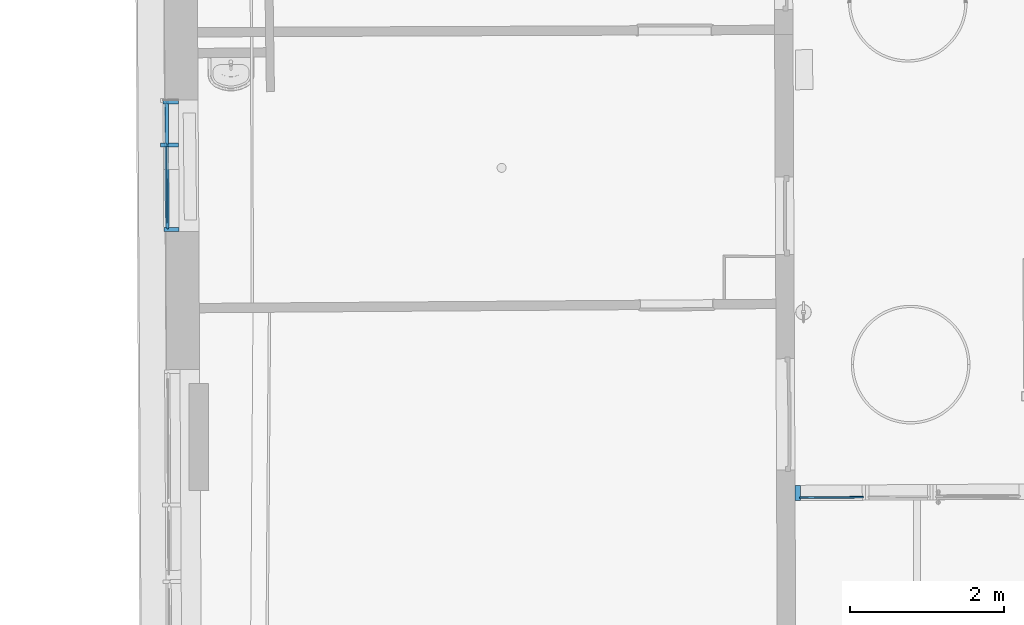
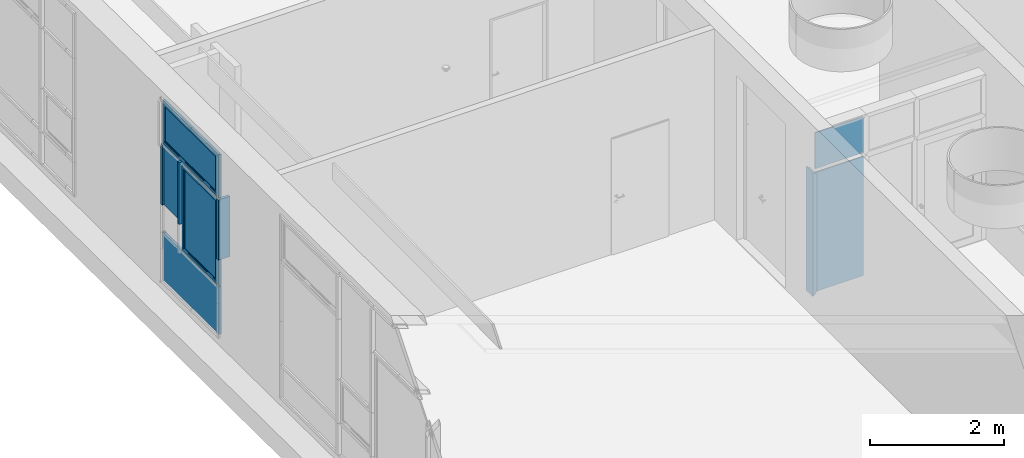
# One storey, part 97 of 158: 12 building element parts, 2 elements without a shape of their own.
"""IFC2X3 building model written with IfcOpenShell, lengths in metres."""

from ifc_helpers import new_model, entity, si_unit, converted_unit, derived_unit, money_unit, direction, frame, origin_with_axes, place, context, subcontext, project, spatial, faceted_brep, material, type_object, element, aggregate, save


model = new_model("IFC2X3")

# Units and contexts
model_context = context("Model", 3, precision=1e-05, world=origin_with_axes(), true_north=direction((0.0, 1.0)))
body_context = subcontext(model_context, "Body", "Model", "MODEL_VIEW")
ifc_project = project(units=[si_unit("LENGTHUNIT", "METRE"), si_unit("AREAUNIT", "SQUARE_METRE"), si_unit("VOLUMEUNIT", "CUBIC_METRE"), converted_unit("PLANEANGLEUNIT", "DEGREE", entity("IfcPlaneAngleMeasure", 0.0174532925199), si_unit("PLANEANGLEUNIT", "RADIAN"), dimensions=[0, 0, 0, 0, 0, 0, 0]), money_unit("EUR"), converted_unit("TIMEUNIT", "Year", entity("IfcTimeMeasure", 31556926.0), si_unit("TIMEUNIT", "SECOND"), dimensions=[0, 0, 1, 0, 0, 0, 0]), si_unit("MASSUNIT", "GRAM", prefix="KILO"), si_unit("THERMODYNAMICTEMPERATUREUNIT", "DEGREE_CELSIUS"), si_unit("LUMINOUSINTENSITYUNIT", "LUMEN"), si_unit("ENERGYUNIT", "JOULE", prefix="MEGA"), derived_unit("THERMALCONDUCTANCEUNIT", [(si_unit("POWERUNIT", "WATT"), 1), (si_unit("LENGTHUNIT", "METRE"), -1), (si_unit("THERMODYNAMICTEMPERATUREUNIT", "KELVIN"), -1)]), derived_unit("SPECIFICHEATCAPACITYUNIT", [(si_unit("ENERGYUNIT", "JOULE"), 1), (si_unit("MASSUNIT", "GRAM", prefix="KILO"), -1), (si_unit("THERMODYNAMICTEMPERATUREUNIT", "KELVIN"), -1)]), derived_unit("MASSDENSITYUNIT", [(si_unit("MASSUNIT", "GRAM", prefix="KILO"), 1), (si_unit("VOLUMEUNIT", "CUBIC_METRE"), -1)])], contexts=[model_context])

# Site, building, storey
site_placement = place(None, origin_with_axes())
site = spatial("IfcSite", under=ifc_project, at=site_placement, Name="Gelände", CompositionType="ELEMENT")
building_placement = place(site_placement, origin_with_axes())
building = spatial("IfcBuilding", under=site, at=building_placement, Name="Gebäude", CompositionType="ELEMENT")
storey_placement = place(building_placement, origin_with_axes())
storey = spatial("IfcBuildingStorey", under=building, at=storey_placement, Name="ERDGESCHOSS", CompositionType="ELEMENT", Elevation=0.0)

# Proxy, building element parts
building_element_proxy_type = type_object("IfcBuildingElementProxyType", Name="Fassadentyp", PredefinedType="NOTDEFINED")
proxy_1_placement = place(storey_placement, frame((-34.8671799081, 43.8049527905, 1.34043902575), z_axis=(0.0, 0.0, 1.0), x_axis=(1.0, 0.0, 0.0)))
proxy_1 = element("IfcBuildingElementProxy", 1, at=proxy_1_placement, inside=storey, type_object=building_element_proxy_type, Name="Fassade-002")
ifc_material_1 = material(Name="53_Metall, Aluminium")
building_element_part_1_placement = place(proxy_1_placement, origin_with_axes())
building_element_part_1 = element("IfcBuildingElementPart", 2, at=building_element_part_1_placement, material=ifc_material_1, Name="53_Metall, Aluminium", context=body_context, shape_type="Brep", body=[
    faceted_brep([(-0.0347110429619, 0.803183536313, 2.54500004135), (-0.0251331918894, -0.829918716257, 2.54500004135), (-0.0301331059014, -0.829948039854, 2.54500004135), (-0.0397109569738, 0.803154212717, 2.54500004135), (-0.0344471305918, 0.758184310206, 2.59000004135), (-0.0253971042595, -0.78491949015, 2.59000004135), (-0.0303970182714, -0.784948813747, 2.59000004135), (-0.0394470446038, 0.758154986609, 2.59000004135)], [[[0, 1, 2, 3]], [[0, 4, 5, 1]], [[1, 5, 6, 2]], [[3, 2, 6, 7]], [[4, 0, 3, 7]], [[5, 4, 7, 6]]]),
    faceted_brep([(-0.0251331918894, -0.829918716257, 2.54500004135), (-0.0251331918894, -0.829918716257, 3.29999994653), (-0.0301331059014, -0.829948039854, 3.29999994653), (-0.0301331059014, -0.829948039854, 2.54500004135), (-0.0253971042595, -0.78491949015, 2.59000004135), (-0.0253971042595, -0.78491949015, 3.25499994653), (-0.0303970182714, -0.784948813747, 3.25499994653), (-0.0303970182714, -0.784948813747, 2.59000004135)], [[[0, 1, 2, 3]], [[0, 4, 5, 1]], [[1, 5, 6, 2]], [[3, 2, 6, 7]], [[4, 0, 3, 7]], [[5, 4, 7, 6]]]),
    faceted_brep([(-0.0347110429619, 0.803183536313, 3.29999994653), (-0.0344471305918, 0.758184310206, 3.25499994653), (-0.0394470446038, 0.758154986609, 3.25499994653), (-0.0397109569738, 0.803154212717, 3.29999994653), (-0.0251331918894, -0.829918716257, 3.29999994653), (-0.0253971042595, -0.78491949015, 3.25499994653), (-0.0303970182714, -0.784948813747, 3.25499994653), (-0.0301331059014, -0.829948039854, 3.29999994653)], [[[0, 1, 2, 3]], [[0, 4, 5, 1]], [[1, 5, 6, 2]], [[3, 2, 6, 7]], [[4, 0, 3, 7]], [[5, 4, 7, 6]]]),
    faceted_brep([(-0.0347110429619, 0.803183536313, 2.54500004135), (-0.0344471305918, 0.758184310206, 2.59000004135), (-0.0394470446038, 0.758154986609, 2.59000004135), (-0.0397109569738, 0.803154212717, 2.54500004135), (-0.0347110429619, 0.803183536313, 3.29999994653), (-0.0344471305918, 0.758184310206, 3.25499994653), (-0.0394470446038, 0.758154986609, 3.25499994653), (-0.0397109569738, 0.803154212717, 3.29999994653)], [[[0, 1, 2, 3]], [[0, 4, 5, 1]], [[1, 5, 6, 2]], [[3, 2, 6, 7]], [[4, 0, 3, 7]], [[5, 4, 7, 6]]]),
    faceted_brep([(0.0152880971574, 0.80347677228, 2.54500004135), (0.0248659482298, -0.82962548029, 2.54500004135), (-0.0251331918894, -0.829918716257, 2.54500004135), (-0.0347110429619, 0.803183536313, 2.54500004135), (0.0154053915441, 0.783477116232, 2.56500004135), (0.0247486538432, -0.809625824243, 2.56500004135), (-0.0252504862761, -0.80991906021, 2.56500004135), (-0.0345937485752, 0.783183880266, 2.56500004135)], [[[0, 1, 2, 3]], [[0, 4, 5, 1]], [[1, 5, 6, 2]], [[3, 2, 6, 7]], [[4, 0, 3, 7]], [[5, 4, 7, 6]]]),
    faceted_brep([(0.0248659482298, -0.82962548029, 2.54500004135), (0.0248659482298, -0.82962548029, 3.29999994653), (-0.0251331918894, -0.829918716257, 3.29999994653), (-0.0251331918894, -0.829918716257, 2.54500004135), (0.0247486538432, -0.809625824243, 2.56500004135), (0.0247486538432, -0.809625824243, 3.27999994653), (-0.0252504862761, -0.80991906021, 3.27999994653), (-0.0252504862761, -0.80991906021, 2.56500004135)], [[[0, 1, 2, 3]], [[0, 4, 5, 1]], [[1, 5, 6, 2]], [[3, 2, 6, 7]], [[4, 0, 3, 7]], [[5, 4, 7, 6]]]),
    faceted_brep([(0.0152880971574, 0.80347677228, 3.29999994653), (0.0154053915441, 0.783477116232, 3.27999994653), (-0.0345937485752, 0.783183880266, 3.27999994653), (-0.0347110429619, 0.803183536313, 3.29999994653), (0.0248659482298, -0.82962548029, 3.29999994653), (0.0247486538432, -0.809625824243, 3.27999994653), (-0.0252504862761, -0.80991906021, 3.27999994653), (-0.0251331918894, -0.829918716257, 3.29999994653)], [[[0, 1, 2, 3]], [[0, 4, 5, 1]], [[1, 5, 6, 2]], [[3, 2, 6, 7]], [[4, 0, 3, 7]], [[5, 4, 7, 6]]]),
    faceted_brep([(0.0152880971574, 0.80347677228, 2.54500004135), (0.0154053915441, 0.783477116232, 2.56500004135), (-0.0345937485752, 0.783183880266, 2.56500004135), (-0.0347110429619, 0.803183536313, 2.54500004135), (0.0152880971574, 0.80347677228, 3.29999994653), (0.0154053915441, 0.783477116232, 3.27999994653), (-0.0345937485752, 0.783183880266, 3.27999994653), (-0.0347110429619, 0.803183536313, 3.29999994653)], [[[0, 1, 2, 3]], [[0, 4, 5, 1]], [[1, 5, 6, 2]], [[3, 2, 6, 7]], [[4, 0, 3, 7]], [[5, 4, 7, 6]]]),
    faceted_brep([(0.0152001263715, 0.818476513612, 2.53000004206), (0.0249539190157, -0.844625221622, 2.53000004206), (-0.0150453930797, -0.844859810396, 2.53000004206), (-0.0247991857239, 0.818241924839, 2.53000004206), (0.0152880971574, 0.80347677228, 2.54500004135), (0.0248659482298, -0.82962548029, 2.54500004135), (-0.0151333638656, -0.829860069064, 2.54500004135), (-0.024711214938, 0.803242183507, 2.54500004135)], [[[0, 1, 2, 3]], [[0, 4, 5, 1]], [[1, 5, 6, 2]], [[3, 2, 6, 7]], [[4, 0, 3, 7]], [[5, 4, 7, 6]]]),
    faceted_brep([(0.0249539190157, -0.844625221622, 2.53000004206), (0.0249539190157, -0.844625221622, 3.31499994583), (-0.0150453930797, -0.844859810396, 3.31499994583), (-0.0150453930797, -0.844859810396, 2.53000004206), (0.0248659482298, -0.82962548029, 2.54500004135), (0.0248659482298, -0.82962548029, 3.29999994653), (-0.0151333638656, -0.829860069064, 3.29999994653), (-0.0151333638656, -0.829860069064, 2.54500004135)], [[[0, 1, 2, 3]], [[0, 4, 5, 1]], [[1, 5, 6, 2]], [[3, 2, 6, 7]], [[4, 0, 3, 7]], [[5, 4, 7, 6]]]),
    faceted_brep([(0.0249539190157, -0.844625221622, 3.31499994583), (0.0152001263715, 0.818476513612, 3.31499994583), (-0.0247991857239, 0.818241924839, 3.31499994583), (-0.0150453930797, -0.844859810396, 3.31499994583), (0.0248659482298, -0.82962548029, 3.29999994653), (0.0152880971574, 0.80347677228, 3.29999994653), (-0.024711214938, 0.803242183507, 3.29999994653), (-0.0151333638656, -0.829860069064, 3.29999994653)], [[[0, 1, 2, 3]], [[0, 4, 5, 1]], [[1, 5, 6, 2]], [[3, 2, 6, 7]], [[4, 0, 3, 7]], [[5, 4, 7, 6]]]),
    faceted_brep([(0.0152001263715, 0.818476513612, 3.31499994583), (0.0152001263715, 0.818476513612, 2.53000004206), (-0.0247991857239, 0.818241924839, 2.53000004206), (-0.0247991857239, 0.818241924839, 3.31499994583), (0.0152880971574, 0.80347677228, 3.29999994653), (0.0152880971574, 0.80347677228, 2.54500004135), (-0.024711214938, 0.803242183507, 2.54500004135), (-0.024711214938, 0.803242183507, 3.29999994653)], [[[0, 1, 2, 3]], [[0, 4, 5, 1]], [[1, 5, 6, 2]], [[3, 2, 6, 7]], [[4, 0, 3, 7]], [[5, 4, 7, 6]]]),
    faceted_brep([(-0.0343298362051, 0.738184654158, 2.61000004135), (0.0206692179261, 0.738507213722, 2.61000004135), (0.0206692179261, 0.738507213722, 3.23499994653), (-0.0343298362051, 0.738184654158, 3.23499994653), (-0.0345937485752, 0.783183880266, 2.56500004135), (0.020405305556, 0.783506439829, 2.56500004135), (0.020405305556, 0.783506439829, 3.27999994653), (-0.0345937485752, 0.783183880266, 3.27999994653)], [[[0, 1, 2, 3]], [[4, 5, 1, 0]], [[1, 5, 6, 2]], [[3, 2, 6, 7]], [[0, 3, 7, 4]], [[7, 6, 5, 4]]]),
    faceted_brep([(-0.0252504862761, -0.80991906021, 2.56500004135), (0.0297485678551, -0.809596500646, 2.56500004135), (0.0297485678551, -0.809596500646, 3.27999994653), (-0.0252504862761, -0.80991906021, 3.27999994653), (-0.0255143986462, -0.764919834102, 2.61000004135), (0.029484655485, -0.764597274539, 2.61000004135), (0.029484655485, -0.764597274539, 3.23499994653), (-0.0255143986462, -0.764919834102, 3.23499994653)], [[[0, 1, 2, 3]], [[4, 5, 1, 0]], [[1, 5, 6, 2]], [[3, 2, 6, 7]], [[0, 3, 7, 4]], [[7, 6, 5, 4]]]),
    faceted_brep([(-0.0252504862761, -0.80991906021, 2.56500004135), (0.0297485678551, -0.809596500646, 2.56500004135), (0.029484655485, -0.764597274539, 2.61000004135), (-0.0255143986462, -0.764919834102, 2.61000004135), (-0.0345937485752, 0.783183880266, 2.56500004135), (0.020405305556, 0.783506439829, 2.56500004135), (0.0206692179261, 0.738507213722, 2.61000004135), (-0.0343298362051, 0.738184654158, 2.61000004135)], [[[0, 1, 2, 3]], [[4, 5, 1, 0]], [[1, 5, 6, 2]], [[3, 2, 6, 7]], [[0, 3, 7, 4]], [[7, 6, 5, 4]]]),
    faceted_brep([(-0.0345937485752, 0.783183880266, 3.27999994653), (0.020405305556, 0.783506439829, 3.27999994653), (0.0206692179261, 0.738507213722, 3.23499994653), (-0.0343298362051, 0.738184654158, 3.23499994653), (-0.0252504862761, -0.80991906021, 3.27999994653), (0.0297485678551, -0.809596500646, 3.27999994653), (0.029484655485, -0.764597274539, 3.23499994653), (-0.0255143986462, -0.764919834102, 3.23499994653)], [[[0, 1, 2, 3]], [[4, 5, 1, 0]], [[1, 5, 6, 2]], [[3, 2, 6, 7]], [[0, 3, 7, 4]], [[7, 6, 5, 4]]]),
])
ifc_material_2 = material(Name="45_Glas, Normalglas")
building_element_part_2_placement = place(proxy_1_placement, origin_with_axes())
building_element_part_2 = element("IfcBuildingElementPart", 3, at=building_element_part_2_placement, material=ifc_material_2, Name="45_Glas, Normalglas", context=body_context, shape_type="Brep", body=[
    faceted_brep([(-0.0243300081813, 0.738243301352, 2.61000004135), (-0.00833028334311, 0.738337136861, 2.61000004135), (0.000485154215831, -0.764767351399, 2.61000004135), (-0.0155145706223, -0.764861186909, 2.61000004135), (-0.0243300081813, 0.738243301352, 3.23499994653), (-0.00833028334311, 0.738337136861, 3.23499994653), (0.000485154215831, -0.764767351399, 3.23499994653), (-0.0155145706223, -0.764861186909, 3.23499994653)], [[[0, 1, 2, 3]], [[4, 5, 1, 0]], [[1, 5, 6, 2]], [[3, 2, 6, 7]], [[0, 3, 7, 4]], [[7, 6, 5, 4]]]),
])
building_element_part_3_placement = place(proxy_1_placement, origin_with_axes())
building_element_part_3 = element("IfcBuildingElementPart", 4, at=building_element_part_3_placement, material=ifc_material_1, Name="53_Metall, Aluminium", context=body_context, shape_type="Brep", body=[
    faceted_brep([(-0.0312957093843, 0.220841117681, 0.940545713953), (-0.025133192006, -0.82991869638, 0.940545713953), (-0.0301331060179, -0.829948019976, 0.940545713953), (-0.0362956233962, 0.220811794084, 0.940545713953), (-0.0310317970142, 0.175841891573, 0.985545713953), (-0.0253971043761, -0.784919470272, 0.985545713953), (-0.030397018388, -0.784948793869, 0.985545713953), (-0.0360317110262, 0.175812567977, 0.985545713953)], [[[0, 1, 2, 3]], [[0, 4, 5, 1]], [[1, 5, 6, 2]], [[3, 2, 6, 7]], [[4, 0, 3, 7]], [[5, 4, 7, 6]]]),
    faceted_brep([(-0.025133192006, -0.82991869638, 0.940545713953), (-0.025133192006, -0.82991869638, 2.49500003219), (-0.0301331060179, -0.829948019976, 2.49500003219), (-0.0301331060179, -0.829948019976, 0.940545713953), (-0.0253971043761, -0.784919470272, 0.985545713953), (-0.0253971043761, -0.784919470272, 2.45000003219), (-0.030397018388, -0.784948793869, 2.45000003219), (-0.030397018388, -0.784948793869, 0.985545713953)], [[[0, 1, 2, 3]], [[0, 4, 5, 1]], [[1, 5, 6, 2]], [[3, 2, 6, 7]], [[4, 0, 3, 7]], [[5, 4, 7, 6]]]),
    faceted_brep([(-0.0312957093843, 0.220841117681, 2.49500003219), (-0.0310317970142, 0.175841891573, 2.45000003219), (-0.0360317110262, 0.175812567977, 2.45000003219), (-0.0362956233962, 0.220811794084, 2.49500003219), (-0.025133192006, -0.82991869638, 2.49500003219), (-0.0253971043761, -0.784919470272, 2.45000003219), (-0.030397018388, -0.784948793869, 2.45000003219), (-0.0301331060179, -0.829948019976, 2.49500003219)], [[[0, 1, 2, 3]], [[0, 4, 5, 1]], [[1, 5, 6, 2]], [[3, 2, 6, 7]], [[4, 0, 3, 7]], [[5, 4, 7, 6]]]),
    faceted_brep([(-0.0312957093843, 0.220841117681, 0.940545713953), (-0.0310317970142, 0.175841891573, 0.985545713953), (-0.0360317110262, 0.175812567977, 0.985545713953), (-0.0362956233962, 0.220811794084, 0.940545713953), (-0.0312957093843, 0.220841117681, 2.49500003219), (-0.0310317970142, 0.175841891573, 2.45000003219), (-0.0360317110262, 0.175812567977, 2.45000003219), (-0.0362956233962, 0.220811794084, 2.49500003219)], [[[0, 1, 2, 3]], [[0, 4, 5, 1]], [[1, 5, 6, 2]], [[3, 2, 6, 7]], [[4, 0, 3, 7]], [[5, 4, 7, 6]]]),
    faceted_brep([(0.018703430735, 0.221134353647, 0.940545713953), (0.0248659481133, -0.829625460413, 0.940545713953), (-0.025133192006, -0.82991869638, 0.940545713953), (-0.0312957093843, 0.220841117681, 0.940545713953), (0.0188207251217, 0.2011346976, 0.960545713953), (0.0247486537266, -0.809625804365, 0.960545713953), (-0.0252504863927, -0.809919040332, 0.960545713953), (-0.0311784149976, 0.200841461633, 0.960545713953)], [[[0, 1, 2, 3]], [[0, 4, 5, 1]], [[1, 5, 6, 2]], [[3, 2, 6, 7]], [[4, 0, 3, 7]], [[5, 4, 7, 6]]]),
    faceted_brep([(0.0248659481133, -0.829625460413, 0.940545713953), (0.0248659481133, -0.829625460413, 2.49500003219), (-0.025133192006, -0.82991869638, 2.49500003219), (-0.025133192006, -0.82991869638, 0.940545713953), (0.0247486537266, -0.809625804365, 0.960545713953), (0.0247486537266, -0.809625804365, 2.47500003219), (-0.0252504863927, -0.809919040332, 2.47500003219), (-0.0252504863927, -0.809919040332, 0.960545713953)], [[[0, 1, 2, 3]], [[0, 4, 5, 1]], [[1, 5, 6, 2]], [[3, 2, 6, 7]], [[4, 0, 3, 7]], [[5, 4, 7, 6]]]),
    faceted_brep([(0.018703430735, 0.221134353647, 2.49500003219), (0.0188207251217, 0.2011346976, 2.47500003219), (-0.0311784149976, 0.200841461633, 2.47500003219), (-0.0312957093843, 0.220841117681, 2.49500003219), (0.0248659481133, -0.829625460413, 2.49500003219), (0.0247486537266, -0.809625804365, 2.47500003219), (-0.0252504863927, -0.809919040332, 2.47500003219), (-0.025133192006, -0.82991869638, 2.49500003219)], [[[0, 1, 2, 3]], [[0, 4, 5, 1]], [[1, 5, 6, 2]], [[3, 2, 6, 7]], [[4, 0, 3, 7]], [[5, 4, 7, 6]]]),
    faceted_brep([(0.018703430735, 0.221134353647, 0.940545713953), (0.0188207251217, 0.2011346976, 0.960545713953), (-0.0311784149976, 0.200841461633, 0.960545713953), (-0.0312957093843, 0.220841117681, 0.940545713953), (0.018703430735, 0.221134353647, 2.49500003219), (0.0188207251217, 0.2011346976, 2.47500003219), (-0.0311784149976, 0.200841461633, 2.47500003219), (-0.0312957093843, 0.220841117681, 2.49500003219)], [[[0, 1, 2, 3]], [[0, 4, 5, 1]], [[1, 5, 6, 2]], [[3, 2, 6, 7]], [[4, 0, 3, 7]], [[5, 4, 7, 6]]]),
    faceted_brep([(0.0186154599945, 0.23613408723, 0.925545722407), (0.0249539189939, -0.844625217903, 0.925545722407), (-0.0150453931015, -0.844859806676, 0.925545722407), (-0.0213838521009, 0.235899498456, 0.925545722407), (0.018703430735, 0.221134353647, 0.940545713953), (0.0248659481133, -0.829625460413, 0.940545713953), (-0.0151333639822, -0.829860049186, 0.940545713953), (-0.0212958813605, 0.220899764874, 0.940545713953)], [[[0, 1, 2, 3]], [[0, 4, 5, 1]], [[1, 5, 6, 2]], [[3, 2, 6, 7]], [[4, 0, 3, 7]], [[5, 4, 7, 6]]]),
    faceted_brep([(0.0249539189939, -0.844625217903, 0.925545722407), (0.0249539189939, -0.844625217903, 2.51000002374), (-0.0150453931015, -0.844859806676, 2.51000002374), (-0.0150453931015, -0.844859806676, 0.925545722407), (0.0248659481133, -0.829625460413, 0.940545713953), (0.0248659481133, -0.829625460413, 2.49500003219), (-0.0151333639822, -0.829860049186, 2.49500003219), (-0.0151333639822, -0.829860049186, 0.940545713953)], [[[0, 1, 2, 3]], [[0, 4, 5, 1]], [[1, 5, 6, 2]], [[3, 2, 6, 7]], [[4, 0, 3, 7]], [[5, 4, 7, 6]]]),
    faceted_brep([(0.0249539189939, -0.844625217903, 2.51000002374), (0.0186154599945, 0.23613408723, 2.51000002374), (-0.0213838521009, 0.235899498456, 2.51000002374), (-0.0150453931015, -0.844859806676, 2.51000002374), (0.0248659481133, -0.829625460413, 2.49500003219), (0.018703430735, 0.221134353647, 2.49500003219), (-0.0212958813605, 0.220899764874, 2.49500003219), (-0.0151333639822, -0.829860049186, 2.49500003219)], [[[0, 1, 2, 3]], [[0, 4, 5, 1]], [[1, 5, 6, 2]], [[3, 2, 6, 7]], [[4, 0, 3, 7]], [[5, 4, 7, 6]]]),
    faceted_brep([(0.0186154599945, 0.23613408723, 2.51000002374), (0.0186154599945, 0.23613408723, 0.925545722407), (-0.0213838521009, 0.235899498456, 0.925545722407), (-0.0213838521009, 0.235899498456, 2.51000002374), (0.018703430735, 0.221134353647, 2.49500003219), (0.018703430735, 0.221134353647, 0.940545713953), (-0.0212958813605, 0.220899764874, 0.940545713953), (-0.0212958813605, 0.220899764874, 2.49500003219)], [[[0, 1, 2, 3]], [[0, 4, 5, 1]], [[1, 5, 6, 2]], [[3, 2, 6, 7]], [[4, 0, 3, 7]], [[5, 4, 7, 6]]]),
    faceted_brep([(-0.0309145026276, 0.155842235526, 1.00554571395), (0.0240845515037, 0.156164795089, 1.00554571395), (0.0240845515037, 0.156164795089, 2.43000003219), (-0.0309145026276, 0.155842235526, 2.43000003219), (-0.0311784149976, 0.200841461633, 0.960545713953), (0.0238206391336, 0.201164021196, 0.960545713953), (0.0238206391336, 0.201164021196, 2.47500003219), (-0.0311784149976, 0.200841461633, 2.47500003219)], [[[0, 1, 2, 3]], [[4, 5, 1, 0]], [[1, 5, 6, 2]], [[3, 2, 6, 7]], [[0, 3, 7, 4]], [[7, 6, 5, 4]]]),
    faceted_brep([(-0.0252504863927, -0.809919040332, 0.960545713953), (0.0297485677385, -0.809596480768, 0.960545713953), (0.0297485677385, -0.809596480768, 2.47500003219), (-0.0252504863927, -0.809919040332, 2.47500003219), (-0.0255143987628, -0.764919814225, 1.00554571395), (0.0294846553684, -0.764597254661, 1.00554571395), (0.0294846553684, -0.764597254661, 2.43000003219), (-0.0255143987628, -0.764919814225, 2.43000003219)], [[[0, 1, 2, 3]], [[4, 5, 1, 0]], [[1, 5, 6, 2]], [[3, 2, 6, 7]], [[0, 3, 7, 4]], [[7, 6, 5, 4]]]),
    faceted_brep([(-0.0252504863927, -0.809919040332, 0.960545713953), (0.0297485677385, -0.809596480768, 0.960545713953), (0.0294846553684, -0.764597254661, 1.00554571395), (-0.0255143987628, -0.764919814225, 1.00554571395), (-0.0311784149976, 0.200841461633, 0.960545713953), (0.0238206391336, 0.201164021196, 0.960545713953), (0.0240845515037, 0.156164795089, 1.00554571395), (-0.0309145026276, 0.155842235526, 1.00554571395)], [[[0, 1, 2, 3]], [[4, 5, 1, 0]], [[1, 5, 6, 2]], [[3, 2, 6, 7]], [[0, 3, 7, 4]], [[7, 6, 5, 4]]]),
    faceted_brep([(-0.0311784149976, 0.200841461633, 2.47500003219), (0.0238206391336, 0.201164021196, 2.47500003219), (0.0240845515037, 0.156164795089, 2.43000003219), (-0.0309145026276, 0.155842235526, 2.43000003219), (-0.0252504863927, -0.809919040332, 2.47500003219), (0.0297485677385, -0.809596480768, 2.47500003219), (0.0294846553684, -0.764597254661, 2.43000003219), (-0.0255143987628, -0.764919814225, 2.43000003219)], [[[0, 1, 2, 3]], [[4, 5, 1, 0]], [[1, 5, 6, 2]], [[3, 2, 6, 7]], [[0, 3, 7, 4]], [[7, 6, 5, 4]]]),
])
building_element_part_4_placement = place(proxy_1_placement, origin_with_axes())
building_element_part_4 = element("IfcBuildingElementPart", 5, at=building_element_part_4_placement, material=ifc_material_2, Name="45_Glas, Normalglas", context=body_context, shape_type="Brep", body=[
    faceted_brep([(-0.0209146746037, 0.155900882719, 1.00554571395), (-0.00491494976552, 0.155994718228, 1.00554571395), (0.000485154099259, -0.764767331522, 1.00554571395), (-0.0155145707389, -0.764861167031, 1.00554571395), (-0.0209146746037, 0.155900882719, 2.43000003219), (-0.00491494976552, 0.155994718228, 2.43000003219), (0.000485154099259, -0.764767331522, 2.43000003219), (-0.0155145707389, -0.764861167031, 2.43000003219)], [[[0, 1, 2, 3]], [[4, 5, 1, 0]], [[1, 5, 6, 2]], [[3, 2, 6, 7]], [[0, 3, 7, 4]], [[7, 6, 5, 4]]]),
])
building_element_part_5_placement = place(proxy_1_placement, origin_with_axes())
building_element_part_5 = element("IfcBuildingElementPart", 6, at=building_element_part_5_placement, material=ifc_material_2, Name="45_Glas, Normalglas", context=body_context, shape_type="Brep", body=[
    faceted_brep([(0.0154184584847, 0.781249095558, 0.915545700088), (0.0151414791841, 0.828476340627, 0.915545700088), (-0.0248578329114, 0.828241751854, 0.915545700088), (-0.0245808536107, 0.781014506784, 0.915545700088), (0.0154184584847, 0.781249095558, 0.905545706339), (0.0185568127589, 0.246133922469, 0.905545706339), (0.0204197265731, -0.0715081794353, 0.905545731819), (0.02495391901, -0.844625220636, 0.905545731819), (0.02495391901, -0.844625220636, 0.62000004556), (0.0249539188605, -0.844625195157, 0.0349999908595), (0.0204197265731, -0.0715081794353, 0.0349999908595), (0.0153362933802, 0.795258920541, 0.0349999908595), (0.0153362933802, 0.795258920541, 0.62000004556), (0.0151414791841, 0.828476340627, 0.62000004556), (-0.0248578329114, 0.828241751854, 0.62000004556), (-0.0246630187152, 0.795024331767, 0.62000004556), (-0.0246630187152, 0.795024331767, 0.0349999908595), (-0.0195795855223, -0.0717427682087, 0.0349999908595), (-0.0150453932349, -0.84485978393, 0.0349999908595), (-0.0150453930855, -0.844859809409, 0.62000004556), (-0.0150453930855, -0.844859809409, 0.905545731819), (-0.0195795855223, -0.0717427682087, 0.905545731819), (-0.0214424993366, 0.245899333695, 0.905545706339), (-0.0245808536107, 0.781014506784, 0.905545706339)], [[[0, 1, 2, 3]], [[0, 4, 5, 6, 7, 8, 9, 10, 11, 12, 13, 1]], [[1, 13, 14, 2]], [[3, 2, 14, 15, 16, 17, 18, 19, 20, 21, 22, 23]], [[4, 0, 3, 23]], [[5, 4, 23, 22]], [[6, 5, 22, 21]], [[7, 6, 21, 20]], [[8, 7, 20, 19]], [[9, 8, 19, 18]], [[10, 9, 18, 17]], [[11, 10, 17, 16]], [[12, 11, 16, 15]], [[13, 12, 15, 14]]]),
])
building_element_part_6_placement = place(proxy_1_placement, origin_with_axes())
building_element_part_6 = element("IfcBuildingElementPart", 7, at=building_element_part_6_placement, material=ifc_material_2, Name="45_Glas, Normalglas", context=body_context, shape_type="Brep", body=[
    faceted_brep([(0.0184981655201, 0.256133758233, 2.51000003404), (0.0153362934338, 0.7952589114, 2.51000003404), (-0.0246630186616, 0.795024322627, 2.51000003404), (-0.0215011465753, 0.255899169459, 2.51000003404), (0.0184981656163, 0.256133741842, 1.42000003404), (0.0153362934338, 0.7952589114, 1.42000003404), (-0.0246630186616, 0.795024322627, 1.42000003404), (-0.0215011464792, 0.255899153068, 1.42000003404)], [[[0, 1, 2, 3]], [[0, 4, 5, 1]], [[1, 5, 6, 2]], [[3, 2, 6, 7]], [[4, 0, 3, 7]], [[5, 4, 7, 6]]]),
])
building_element_part_7_placement = place(proxy_1_placement, origin_with_axes())
building_element_part_7 = element("IfcBuildingElementPart", 8, at=building_element_part_7_placement, material=ifc_material_1, Name="53_Metall, Aluminium", context=body_context, shape_type="Brep", body=[
    faceted_brep([(0.0149540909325, -0.844683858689, 2.52000003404), (-0.00504556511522, -0.844801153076, 2.52000003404), (-0.00513353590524, -0.82980141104, 2.52000003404), (-0.0451328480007, -0.830035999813, 2.52000003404), (-0.0448396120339, -0.880035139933, 2.52000003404), (0.155156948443, -0.878862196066, 2.52000003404), (0.154863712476, -0.828863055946, 2.52000003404), (0.0148661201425, -0.829684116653, 2.52000003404), (0.0149540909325, -0.844683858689, 1.42000003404), (-0.00504556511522, -0.844801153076, 1.42000003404), (-0.00513353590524, -0.82980141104, 1.42000003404), (-0.0451328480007, -0.830035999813, 1.42000003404), (-0.0448396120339, -0.880035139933, 1.42000003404), (0.155156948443, -0.878862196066, 1.42000003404), (0.154863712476, -0.828863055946, 1.42000003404), (0.0148661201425, -0.829684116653, 1.42000003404)], [[[0, 1, 2, 3, 4, 5, 6, 7]], [[1, 0, 8, 9]], [[10, 2, 1, 9]], [[2, 10, 11, 3]], [[12, 4, 3, 11]], [[13, 5, 4, 12]], [[14, 6, 5, 13]], [[15, 7, 6, 14]], [[0, 7, 15, 8]], [[8, 15, 14, 13, 12, 11, 10, 9]]]),
])
building_element_part_8_placement = place(proxy_1_placement, origin_with_axes())
building_element_part_8 = element("IfcBuildingElementPart", 9, at=building_element_part_8_placement, material=ifc_material_1, Name="53_Metall, Aluminium", context=body_context, shape_type="Brep", body=[
    faceted_brep([(0.00861563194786, 0.236075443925, 2.54500003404), (0.00870360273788, 0.22107570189, 2.54500003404), (0.148701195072, 0.221896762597, 2.54500003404), (0.148407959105, 0.271895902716, 2.54500003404), (0.00841036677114, 0.271074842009, 2.54500003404), (0.00849833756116, 0.256075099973, 2.54500003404), (-0.0115013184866, 0.255957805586, 2.54500003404), (-0.0115892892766, 0.270957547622, 2.54500003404), (-0.0865879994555, 0.270517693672, 2.54500003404), (-0.0862947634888, 0.220518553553, 2.54500003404), (-0.0112960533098, 0.220958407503, 2.54500003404), (-0.0113840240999, 0.235958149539, 2.54500003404), (0.00861563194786, 0.236075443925, 1.4200000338), (0.00870360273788, 0.22107570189, 1.4200000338), (0.148701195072, 0.221896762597, 1.4200000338), (0.148407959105, 0.271895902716, 1.4200000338), (0.00841036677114, 0.271074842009, 1.4200000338), (0.00849833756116, 0.256075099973, 1.4200000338), (-0.0115013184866, 0.255957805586, 1.4200000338), (-0.0115892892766, 0.270957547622, 1.4200000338), (-0.0865879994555, 0.270517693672, 1.4200000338), (-0.0862947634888, 0.220518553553, 1.4200000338), (-0.0112960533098, 0.220958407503, 1.4200000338), (-0.0113840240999, 0.235958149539, 1.4200000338)], [[[0, 1, 2, 3, 4, 5, 6, 7, 8, 9, 10, 11]], [[1, 0, 12, 13]], [[1, 13, 14, 2]], [[3, 2, 14, 15]], [[4, 3, 15, 16]], [[4, 16, 17, 5]], [[5, 17, 18, 6]], [[7, 6, 18, 19]], [[19, 20, 8, 7]], [[9, 8, 20, 21]], [[22, 10, 9, 21]], [[11, 10, 22, 23]], [[0, 11, 23, 12]], [[23, 22, 21, 20, 19, 18, 17, 16, 15, 14, 13, 12]]]),
])
building_element_part_9_placement = place(proxy_1_placement, origin_with_axes())
building_element_part_9 = element("IfcBuildingElementPart", 10, at=building_element_part_9_placement, material=ifc_material_1, Name="53_Metall, Aluminium", context=body_context, shape_type="Brep", body=[
    faceted_brep([(0.00533646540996, 0.795200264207, 2.52000003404), (0.00542443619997, 0.780200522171, 2.52000003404), (0.145422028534, 0.781021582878, 2.52000003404), (0.145128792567, 0.831020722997, 2.52000003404), (-0.0548677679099, 0.82984777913, 2.52000003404), (-0.0545745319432, 0.779848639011, 2.52000003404), (-0.0145752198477, 0.780083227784, 2.52000003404), (-0.0146631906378, 0.79508296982, 2.52000003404), (0.00533646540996, 0.795200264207, 1.42000003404), (0.00542443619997, 0.780200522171, 1.42000003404), (0.145422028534, 0.781021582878, 1.42000003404), (0.145128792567, 0.831020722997, 1.42000003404), (-0.0548677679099, 0.82984777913, 1.42000003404), (-0.0545745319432, 0.779848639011, 1.42000003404), (-0.0145752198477, 0.780083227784, 1.42000003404), (-0.0146631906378, 0.79508296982, 1.42000003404)], [[[0, 1, 2, 3, 4, 5, 6, 7]], [[0, 8, 9, 1]], [[9, 10, 2, 1]], [[10, 11, 3, 2]], [[11, 12, 4, 3]], [[12, 13, 5, 4]], [[6, 5, 13, 14]], [[14, 15, 7, 6]], [[7, 15, 8, 0]], [[8, 15, 14, 13, 12, 11, 10, 9]]]),
])
aggregate(proxy_1, [building_element_part_1, building_element_part_2, building_element_part_3, building_element_part_4, building_element_part_5, building_element_part_6, building_element_part_7, building_element_part_8, building_element_part_9])

proxy_2_placement = place(storey_placement, frame((-24.5086107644, 39.472840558, 1.345), z_axis=(0.0, 0.0, 1.0), x_axis=(1.0, 0.0, 0.0)))
proxy_2 = element("IfcBuildingElementProxy", 11, at=proxy_2_placement, inside=storey, type_object=building_element_proxy_type, Name="Fassade-002")
building_element_part_10_placement = place(proxy_2_placement, origin_with_axes())
building_element_part_10 = element("IfcBuildingElementPart", 12, at=building_element_part_10_placement, material=ifc_material_2, Name="45_Glas, Normalglas", context=body_context, shape_type="Brep", body=[
    faceted_brep([(-2.12679715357, -0.0230811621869, 2.22574707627), (-1.29173208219, -0.0179450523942, 2.22574707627), (-1.29185509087, 0.00205456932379, 2.22574707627), (-2.12692016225, -0.00308154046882, 2.22574707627), (-2.12679715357, -0.0230811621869, 0.0549999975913), (-1.29173208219, -0.0179450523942, 0.0549999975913), (-1.29185509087, 0.00205456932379, 0.0549999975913), (-2.12692016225, -0.00308154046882, 0.0549999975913)], [[[0, 1, 2, 3]], [[0, 4, 5, 1]], [[1, 5, 6, 2]], [[3, 2, 6, 7]], [[4, 0, 3, 7]], [[5, 4, 7, 6]]]),
])
building_element_part_11_placement = place(proxy_2_placement, origin_with_axes())
building_element_part_11 = element("IfcBuildingElementPart", 13, at=building_element_part_11_placement, material=ifc_material_2, Name="45_Glas, Normalglas", context=body_context, shape_type="Brep", body=[
    faceted_brep([(-2.12679716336, -0.023081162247, 2.95000000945), (-1.29173209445, -0.0179450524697, 2.95000000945), (-1.29185510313, 0.00205456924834, 2.95000000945), (-2.12692017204, -0.00308154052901, 2.95000000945), (-2.12679716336, -0.023081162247, 2.29574707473), (-1.29173209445, -0.0179450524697, 2.29574707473), (-1.29185510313, 0.00205456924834, 2.29574707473), (-2.12692017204, -0.00308154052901, 2.29574707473)], [[[0, 1, 2, 3]], [[0, 4, 5, 1]], [[1, 5, 6, 2]], [[3, 2, 6, 7]], [[4, 0, 3, 7]], [[5, 4, 7, 6]]]),
])
building_element_part_12_placement = place(proxy_2_placement, origin_with_axes())
building_element_part_12 = element("IfcBuildingElementPart", 14, at=building_element_part_12_placement, material=ifc_material_1, Name="53_Metall, Aluminium", context=body_context, shape_type="Brep", body=[
    faceted_brep([(-2.12679717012, -0.0230811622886, 2.22146135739), (-2.1269201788, -0.00308154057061, 2.22146135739), (-2.11192046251, -0.00298928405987, 2.21074707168), (-2.11284302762, 0.147007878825, 2.21074707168), (-2.18284170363, 0.146577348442, 2.26074707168), (-2.18161161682, -0.0534188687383, 2.26074707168), (-2.11161294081, -0.052988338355, 2.21074707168), (-2.11179745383, -0.0229889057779, 2.21074707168), (-2.12679717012, -0.0230811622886, 0.055), (-2.1269201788, -0.00308154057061, 0.055), (-2.11192046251, -0.00298928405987, 0.07), (-2.11284302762, 0.147007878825, 0.07), (-2.18284170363, 0.146577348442, 0.0), (-2.18161161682, -0.0534188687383, 0.0), (-2.11161294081, -0.052988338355, 0.07), (-2.11179745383, -0.0229889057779, 0.07)], [[[0, 1, 2, 3, 4, 5, 6, 7]], [[1, 0, 8, 9]], [[10, 2, 1, 9]], [[2, 10, 11, 3]], [[3, 11, 12, 4]], [[4, 12, 13, 5]], [[5, 13, 14, 6]], [[15, 7, 6, 14]], [[0, 7, 15, 8]], [[8, 15, 14, 13, 12, 11, 10, 9]]]),
])
aggregate(proxy_2, [building_element_part_10, building_element_part_11, building_element_part_12])

save(model, "model.ifc")
